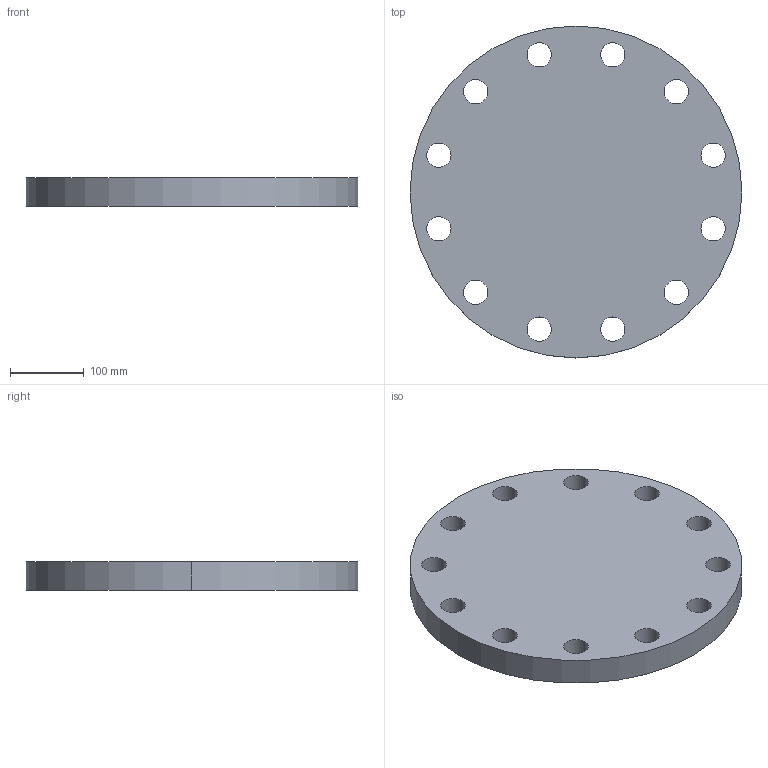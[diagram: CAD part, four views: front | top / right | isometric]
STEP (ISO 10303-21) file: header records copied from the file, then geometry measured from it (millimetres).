
FILE_DESCRIPTION (( 'STEP AP214' ), '1' );
FILE_NAME ('PN40 DN250 Type 05 - Type A Face.STEP', '2019-01-05T16:15:45', ( '' ), ( '' ), 'SwSTEP 2.0', 'SolidWorks 2019', '' );
FILE_SCHEMA (( 'AUTOMOTIVE_DESIGN' ));
Length unit declared in the file: millimetre
Products named in the file (1): PN40 DN250 Type 05 - Type A Face
Bounding box: 450 x 450 x 38 mm (x, y, z)
Volume: 5653622.7 mm3; surface area: 398555 mm2
Topology: 1 solids, 1 shells, 28 faces, 78 edges, 52 vertices
Faces by surface type: cylinder 26, plane 2
Entity records: 1016 total; most frequent: DIRECTION 188, CARTESIAN_POINT 159, ORIENTED_EDGE 156, AXIS2_PLACEMENT_3D 81, EDGE_CURVE 78, CIRCLE 52, EDGE_LOOP 52, VERTEX_POINT 52
